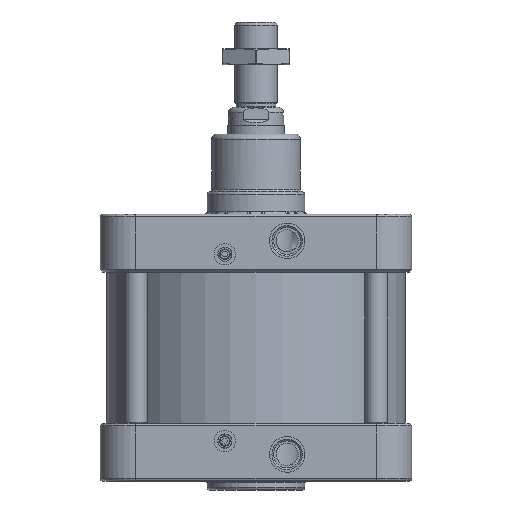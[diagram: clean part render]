
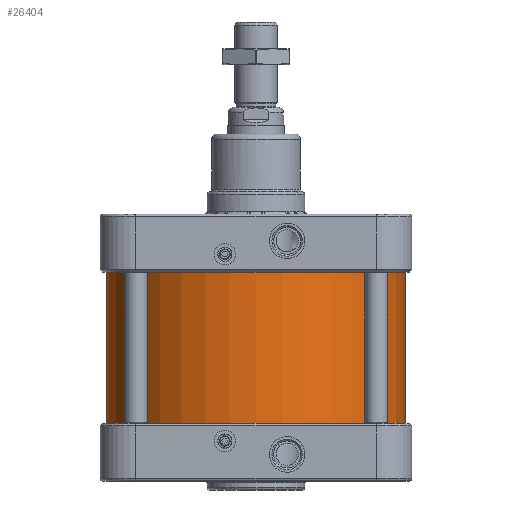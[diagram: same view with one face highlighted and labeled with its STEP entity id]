
A CAD part, front view. The second image highlights one B-rep face of the part: STEP entity #26404.
In plain terms, the highlighted cylindrical face has radius 168 mm (diameter 336 mm), a full revolution.
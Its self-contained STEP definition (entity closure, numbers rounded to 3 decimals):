
#2804=CIRCLE('',#29645,168.);
#2805=CIRCLE('',#29647,168.);
#3478=FACE_BOUND('',#7098,.T.);
#5147=FACE_OUTER_BOUND('',#7097,.T.);
#7097=EDGE_LOOP('',(#22547));
#7098=EDGE_LOOP('',(#22548));
#11979=VERTEX_POINT('',#64759);
#11980=VERTEX_POINT('',#64762);
#15511=EDGE_CURVE('',#11979,#11979,#2804,.T.);
#15512=EDGE_CURVE('',#11980,#11980,#2805,.T.);
#22547=ORIENTED_EDGE('',*,*,#15511,.T.);
#22548=ORIENTED_EDGE('',*,*,#15512,.T.);
#23070=CYLINDRICAL_SURFACE('',#29646,168.);
#26404=ADVANCED_FACE('',(#5147,#3478),#23070,.T.);
#29645=AXIS2_PLACEMENT_3D('',#64760,#36878,#36879);
#29646=AXIS2_PLACEMENT_3D('',#64761,#36880,#36881);
#29647=AXIS2_PLACEMENT_3D('',#64763,#36882,#36883);
#36878=DIRECTION('center_axis',(0.,0.,1.));
#36879=DIRECTION('ref_axis',(-1.,0.,0.));
#36880=DIRECTION('center_axis',(0.,0.,1.));
#36881=DIRECTION('ref_axis',(-1.,0.,0.));
#36882=DIRECTION('center_axis',(0.,0.,-1.));
#36883=DIRECTION('ref_axis',(-1.,0.,0.));
#64759=CARTESIAN_POINT('',(168.,0.,-85.));
#64760=CARTESIAN_POINT('Origin',(0.,0.,-85.));
#64761=CARTESIAN_POINT('Origin',(0.,0.,0.));
#64762=CARTESIAN_POINT('',(168.,0.,85.));
#64763=CARTESIAN_POINT('Origin',(0.,0.,85.));
